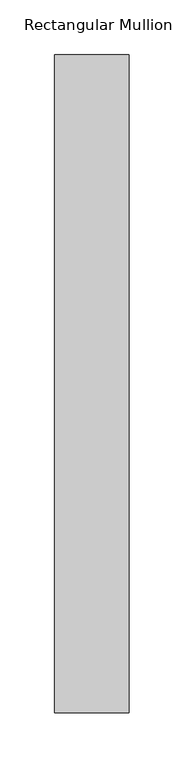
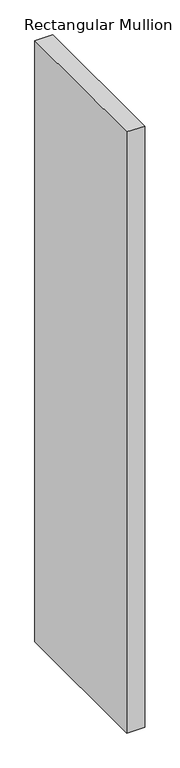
"""IFC4 building model written with IfcOpenShell, lengths in millimetres: member geometry, Rectangular Mullion : DucoSun Cubic Design louvre 600."""

from ifc_helpers import new_model, si_unit, frame, origin, place, context, project, spatial, polyline, outline, extrude, source, transform, mapped, element, save


def rectangular_mullion_8e0a44cd(model_context):
    return source(origin(), model_context, "Body", "SweptSolid", [
        extrude(outline(polyline([(-68.0, 600.0), (0.0, 600.0), (0.0, 0.0), (-68.0, 0.0), (-68.0, 600.0)])), frame((0.0, 0.0, -2400.0), z_axis=(0.0, 0.0, 1.0), x_axis=(1.0, 0.0, 0.0)), (0.0, 0.0, 1.0), 2400.0),
    ])


if __name__ == "__main__":
    model = new_model("IFC4")
    model_context = context("Model", 3, world=origin())
    ifc_project = project(units=[si_unit("LENGTHUNIT", "METRE", prefix="MILLI")], contexts=[model_context])
    site = spatial("IfcSite", under=ifc_project)
    building = spatial("IfcBuilding", under=site)
    placement = place(None, origin())
    rectangular_mullion_shape = rectangular_mullion_8e0a44cd(model_context)
    element("IfcMember", 1, ObjectType="Rectangular Mullion : DucoSun Cubic Design louvre 600", at=placement, inside=building, context=model_context, shape_type="MappedRepresentation", body=[
        mapped(rectangular_mullion_shape, transform((0.0, 0.0, 0.0), x_axis=(1.0, 0.0, 0.0), y_axis=(0.0, 1.0, 0.0), z_axis=(0.0, 0.0, 1.0))),
    ])
    save(model, "model.ifc")
